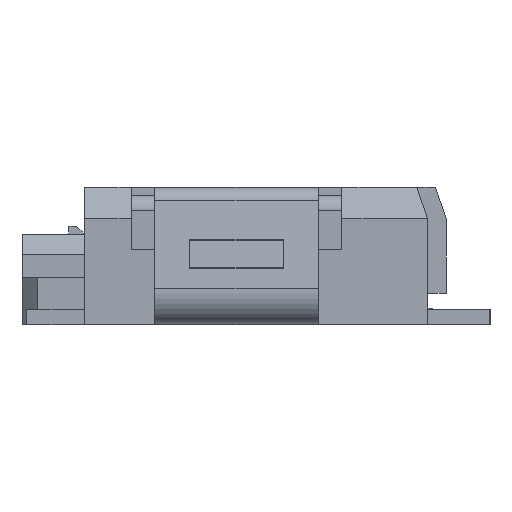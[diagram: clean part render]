
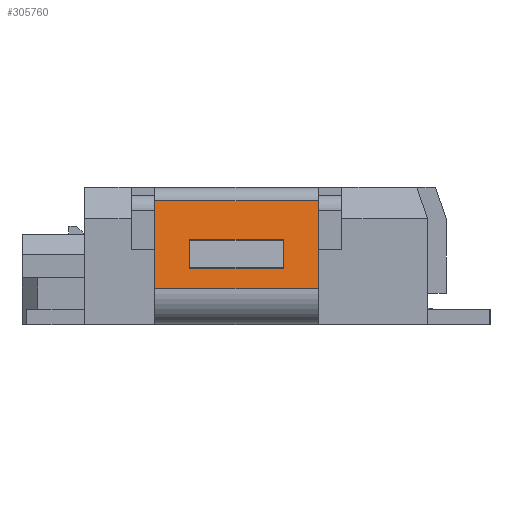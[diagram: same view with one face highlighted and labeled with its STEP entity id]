
A CAD part, left-side view. The second image highlights one B-rep face of the part: STEP entity #305760.
In plain terms, the highlighted planar face has unit normal (-0.989, 0, 0.148).
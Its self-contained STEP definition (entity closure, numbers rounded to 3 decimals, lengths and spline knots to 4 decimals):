
#116270=CARTESIAN_POINT('',(6.5607,4.9848,
-0.2051));
#116280=VERTEX_POINT('',#116270);
#116310=CARTESIAN_POINT('',(6.5607,6.0348,
-0.2051));
#116320=DIRECTION('',(0.,-1.,0.));
#116330=VECTOR('',#116320,1.);
#116340=LINE('',#116310,#116330);
#116350=CARTESIAN_POINT('',(6.5607,6.0348,
-0.2051));
#116360=VERTEX_POINT('',#116350);
#116370=EDGE_CURVE('',#116360,#116280,#116340,.T.);
#142270=CARTESIAN_POINT('',(6.5222,5.8098,
-0.4617));
#142280=VERTEX_POINT('',#142270);
#142310=CARTESIAN_POINT('',(6.5222,0.,-0.4617));
#142320=DIRECTION('',(-0.,-1.,0.));
#142330=VECTOR('',#142320,1.);
#142340=LINE('',#142310,#142330);
#142350=CARTESIAN_POINT('',(6.5222,5.2098,
-0.4617));
#142360=VERTEX_POINT('',#142350);
#142370=EDGE_CURVE('',#142280,#142360,#142340,.T.);
#171930=CARTESIAN_POINT('',(6.5914,6.0348,0.));
#171940=DIRECTION('',(-0.148,-0.,-0.989));
#171950=VECTOR('',#171940,1.);
#171960=LINE('',#171930,#171950);
#171970=CARTESIAN_POINT('',(6.476,6.0348,
-0.7703));
#171980=VERTEX_POINT('',#171970);
#171990=EDGE_CURVE('',#116360,#171980,#171960,.T.);
#298330=CARTESIAN_POINT('',(6.5914,5.2098,0.));
#298340=DIRECTION('',(-0.148,0.,-0.989));
#298350=VECTOR('',#298340,1.);
#298360=LINE('',#298330,#298350);
#298370=CARTESIAN_POINT('',(6.4956,5.2098,
-0.6397));
#298380=VERTEX_POINT('',#298370);
#298390=EDGE_CURVE('',#142360,#298380,#298360,.T.);
#305350=CARTESIAN_POINT('',(6.4739,6.061,
-0.7844));
#305360=DIRECTION('',(-0.989,0.,0.148));
#305370=DIRECTION('',(0.148,0.,0.989));
#305380=AXIS2_PLACEMENT_3D('',#305350,#305360,#305370);
#305390=PLANE('',#305380);
#305400=ORIENTED_EDGE('',*,*,#171990,.T.);
#305410=ORIENTED_EDGE('',*,*,#116370,.F.);
#305420=CARTESIAN_POINT('',(6.5914,4.9848,0.));
#305430=DIRECTION('',(-0.148,-0.,-0.989));
#305440=VECTOR('',#305430,1.);
#305450=LINE('',#305420,#305440);
#305460=CARTESIAN_POINT('',(6.476,4.9848,
-0.7703));
#305470=VERTEX_POINT('',#305460);
#305480=EDGE_CURVE('',#116280,#305470,#305450,.T.);
#305490=ORIENTED_EDGE('',*,*,#305480,.F.);
#305500=CARTESIAN_POINT('',(6.476,4.9848,
-0.7703));
#305510=DIRECTION('',(0.,1.,0.));
#305520=VECTOR('',#305510,1.);
#305530=LINE('',#305500,#305520);
#305540=EDGE_CURVE('',#305470,#171980,#305530,.T.);
#305550=ORIENTED_EDGE('',*,*,#305540,.F.);
#305560=EDGE_LOOP('',(#305550,#305490,#305410,#305400));
#305570=FACE_OUTER_BOUND('',#305560,.T.);
#305580=CARTESIAN_POINT('',(6.5914,5.8098,0.));
#305590=DIRECTION('',(0.148,-0.,0.989));
#305600=VECTOR('',#305590,1.);
#305610=LINE('',#305580,#305600);
#305620=CARTESIAN_POINT('',(6.4956,5.8098,
-0.6397));
#305630=VERTEX_POINT('',#305620);
#305640=EDGE_CURVE('',#305630,#142280,#305610,.T.);
#305650=ORIENTED_EDGE('',*,*,#305640,.T.);
#305660=CARTESIAN_POINT('',(6.4956,0.,-0.6397));
#305670=DIRECTION('',(0.,-1.,-0.));
#305680=VECTOR('',#305670,1.);
#305690=LINE('',#305660,#305680);
#305700=EDGE_CURVE('',#305630,#298380,#305690,.T.);
#305710=ORIENTED_EDGE('',*,*,#305700,.F.);
#305720=ORIENTED_EDGE('',*,*,#298390,.T.);
#305730=ORIENTED_EDGE('',*,*,#142370,.T.);
#305740=EDGE_LOOP('',(#305730,#305720,#305710,#305650));
#305750=FACE_BOUND('',#305740,.T.);
#305760=ADVANCED_FACE('',(#305570,#305750),#305390,.T.);
